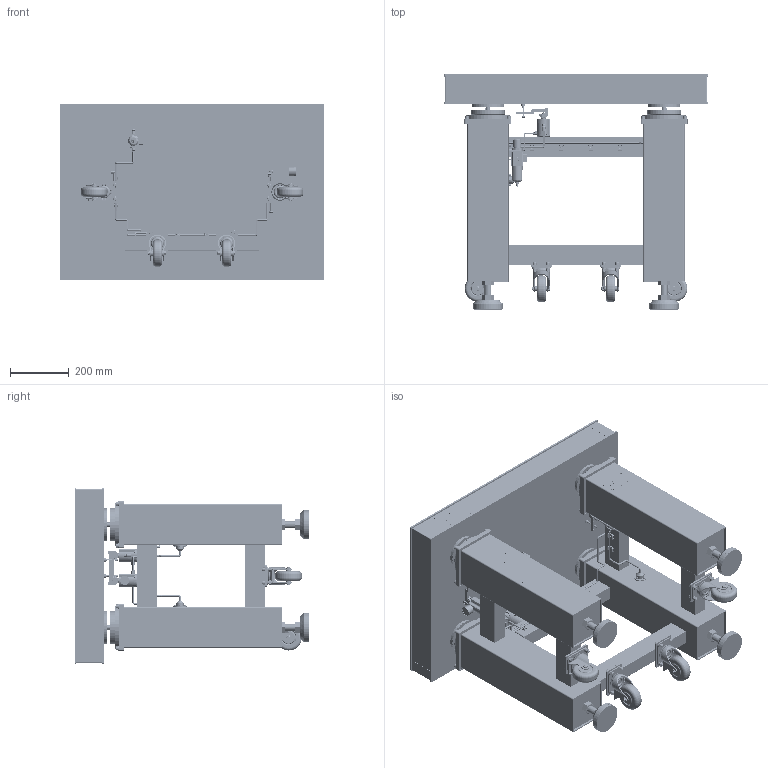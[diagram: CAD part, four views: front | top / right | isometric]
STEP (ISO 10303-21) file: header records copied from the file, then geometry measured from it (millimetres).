
FILE_DESCRIPTION (( 'STEP AP203' ), '1' );
FILE_NAME ('GPT-0906 ¹âÑ§Æ½Ì¨.STEP', '2018-02-06T05:51:24', ( 'pc' ), ( '' ), 'SwSTEP 2.0', 'SolidWorks 2016', '' );
FILE_SCHEMA (( 'CONFIG_CONTROL_DESIGN' ));
Products named in the file (1): GPT-0906 嫖悝す怢
Bounding box: 900 x 800 x 600 mm (x, y, z)
Volume: 19263497.2 mm3; surface area: 7885019 mm2
Topology: 324 solids, 332 shells, 12912 faces, 32315 edges, 20485 vertices
Faces by surface type: plane 4885, cylinder 4601, bspline 1432, cone 1184, torus 742, sphere 68
Entity records: 408507 total; most frequent: CARTESIAN_POINT 98783, ORIENTED_EDGE 63870, DIRECTION 63671, EDGE_CURVE 31935, AXIS2_PLACEMENT_3D 23930, VERTEX_POINT 20461, EDGE_LOOP 16024, VECTOR 15811
